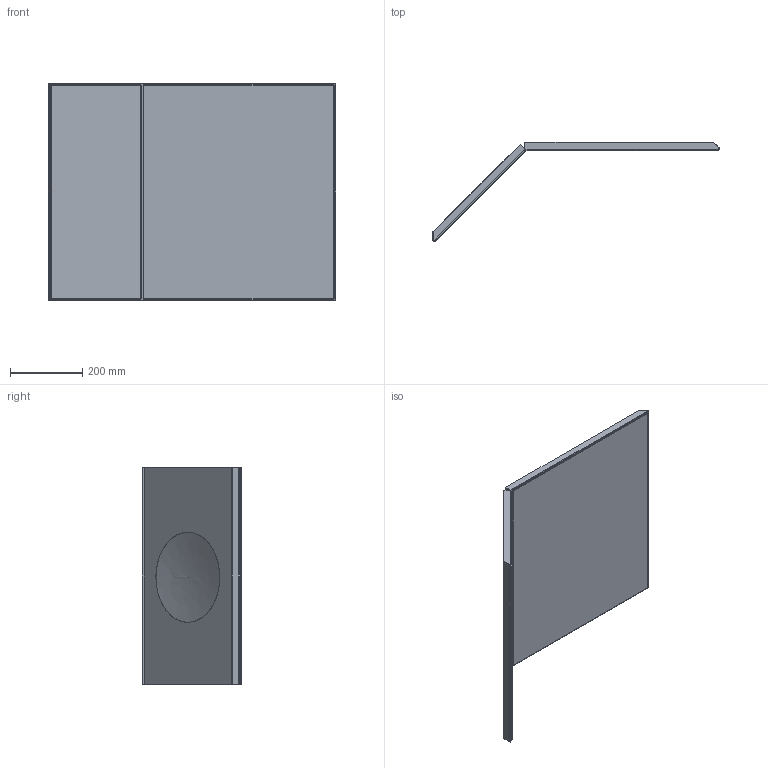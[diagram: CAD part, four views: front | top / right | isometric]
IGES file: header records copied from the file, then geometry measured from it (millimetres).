
Start section: Data from Parasolid IGES Translator 19.0.9, Copyright(c) 2006 Siemens PL M Software. All Rights Reserved.
Global section: file name: noorth-mirror-H 60 D 2,5 W 90_4234.igs; native system: By Siemens PLM Incorporated; preprocessor: XPlus GENERIC/IGES 19.0.9; author: Noname; organization: Noname; date: 20210721.091403; units: metre
Bounding box: 797.36 x 274.85 x 600 mm (x, y, z)
Volume: 11816927.1 mm3; surface area: 2386466.5 mm2
Topology: 7 solids, 7 shells, 101 faces, 215 edges, 127 vertices
Faces by surface type: plane 83, cylinder 15, bspline 3
Full cylindrical faces by diameter (mm): 250 x1
